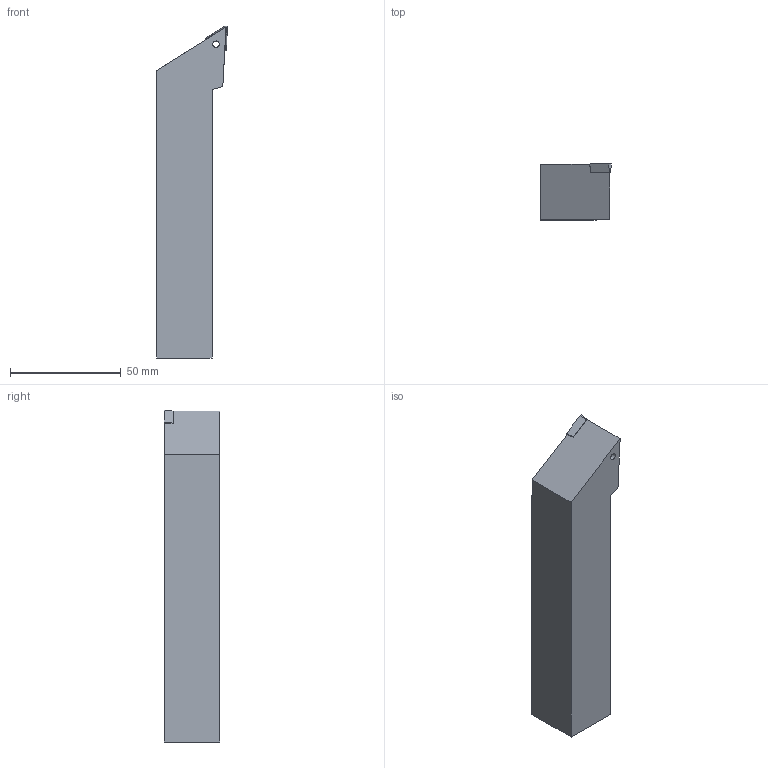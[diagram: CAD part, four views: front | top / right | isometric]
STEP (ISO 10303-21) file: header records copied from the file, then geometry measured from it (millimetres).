
FILE_DESCRIPTION(/* description */ (''),/* implementation_level */ '2;1');
FILE_NAME(/* name */ 'SDJCR2525-M11-HAAS.stp',/* time_stamp */ '2021-09-29T10:41:34+09:00',/* author */ (''),/* organization */ (''),/* preprocessor_version */ 'ST-DEVELOPER v16.7',/* originating_system */ 'SIEMENS PLM Software NX 1946',/* authorisation */ '');
FILE_SCHEMA (('AP203_CONFIGURATION_CONTROLLED_3D_DESIGN_OF_MECHANICAL_PARTS_AND_ASSEMBLIES_MIM_LF { 1 0 10303 403 2 1 2}'));
Length unit declared in the file: millimetre
Products named in the file (1): user51A0C9E06978
Bounding box: 31.96 x 25 x 149.65 mm (x, y, z)
Volume: 88956.3 mm3; surface area: 16326.1 mm2
Topology: 2 solids, 2 shells, 34 faces, 90 edges, 60 vertices
Faces by surface type: plane 29, cylinder 3, cone 2
Full cylindrical faces by diameter (mm): 2.9 x1, 6.2 x1
Entity records: 1125 total; most frequent: CARTESIAN_POINT 181, ORIENTED_EDGE 174, DIRECTION 167, EDGE_CURVE 87, LINE 77, VECTOR 77, VERTEX_POINT 59, AXIS2_PLACEMENT_3D 45
